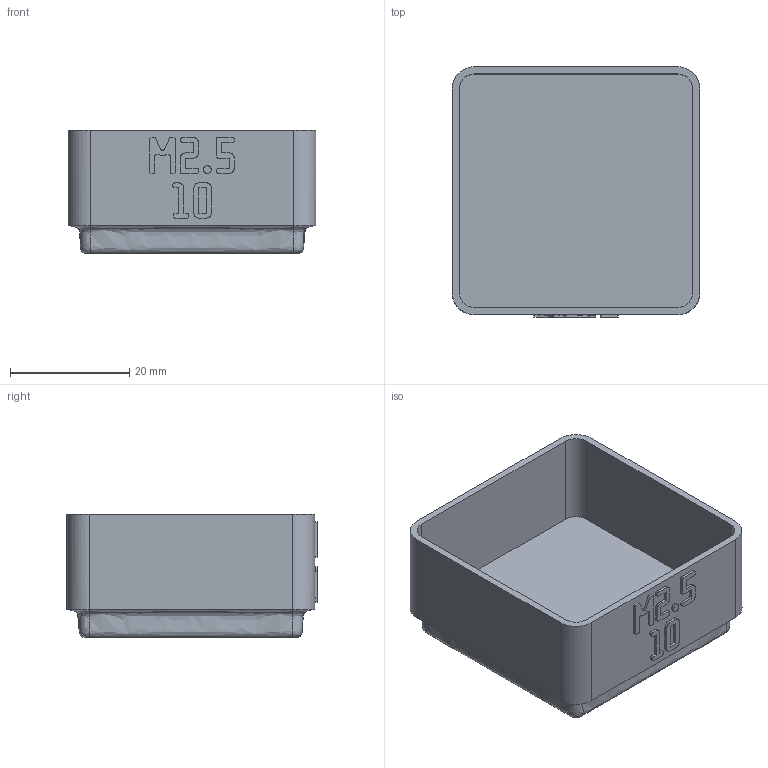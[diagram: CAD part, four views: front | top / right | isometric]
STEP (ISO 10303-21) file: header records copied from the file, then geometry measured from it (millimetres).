
FILE_DESCRIPTION(('Open CASCADE Model'),'2;1');
FILE_NAME('Open CASCADE Shape Model','2026-11-03T15:27:30',('Author'),( 'Open CASCADE'),'Open CASCADE STEP processor 8.0','build123d', 'Unknown');
FILE_SCHEMA(('AUTOMOTIVE_DESIGN { 1 0 10303 214 1 1 1 1 }'));
Length unit declared in the file: millimetre
Products named in the file (1): COMPOUND
Bounding box: 41.5 x 41.9 x 20.75 mm (x, y, z)
Volume: 9648.6 mm3; surface area: 8987.3 mm2
Topology: 1 solids, 1 shells, 568 faces, 1666 edges, 1108 vertices
Faces by surface type: plane 552, bspline 8, cylinder 8
Entity records: 39486 total; most frequent: CARTESIAN_POINT 8331, DIRECTION 5008, LINE 3858, VECTOR 3858, ORIENTED_EDGE 3332, PCURVE 3332, DEFINITIONAL_REPRESENTATION 3332, EDGE_CURVE 1666
